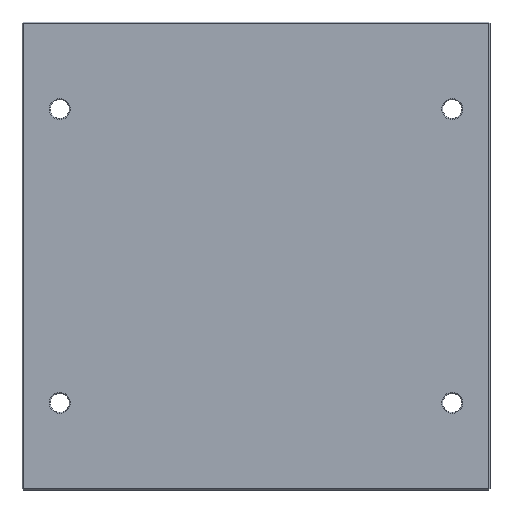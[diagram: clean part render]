
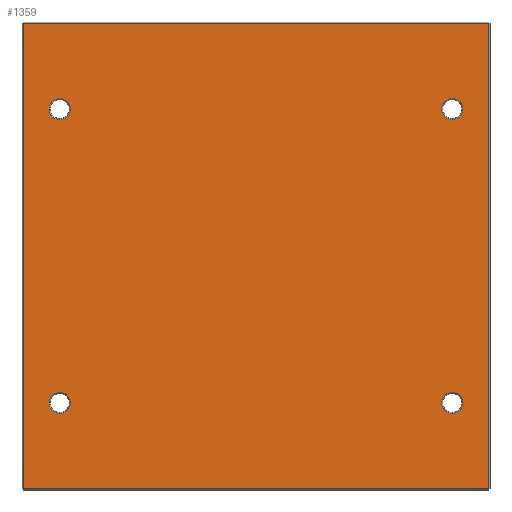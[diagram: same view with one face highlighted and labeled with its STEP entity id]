
A CAD part, front view. The second image highlights one B-rep face of the part: STEP entity #1359.
In plain terms, the highlighted planar face has unit normal (0, -1, 0).
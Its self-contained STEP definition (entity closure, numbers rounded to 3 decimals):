
#26 = AXIS2_PLACEMENT_3D ( 'NONE', #240, #244, #255 ) ;
#35 = EDGE_CURVE ( 'NONE', #513, #1153, #177, .T. ) ;
#41 = EDGE_CURVE ( 'NONE', #270, #474, #1491, .T. ) ;
#58 = CIRCLE ( 'NONE', #994, 10. ) ;
#81 = VERTEX_POINT ( 'NONE', #478 ) ;
#89 = EDGE_LOOP ( 'NONE', ( #1637, #621 ) ) ;
#98 = CIRCLE ( 'NONE', #99, 10. ) ;
#99 = AXIS2_PLACEMENT_3D ( 'NONE', #251, #243, #237 ) ;
#101 = LINE ( 'NONE', #218, #1100 ) ;
#105 = CARTESIAN_POINT ( 'NONE',  ( -187., 0., -140. ) ) ;
#112 = VECTOR ( 'NONE', #1469, 1000. ) ;
#125 = ORIENTED_EDGE ( 'NONE', *, *, #1372, .T. ) ;
#177 = LINE ( 'NONE', #730, #511 ) ;
#200 = DIRECTION ( 'NONE',  ( 0., 1., 0. ) ) ;
#203 = DIRECTION ( 'NONE',  ( 0., 0., 1. ) ) ;
#218 = CARTESIAN_POINT ( 'NONE',  ( -222., 0., 0. ) ) ;
#237 = DIRECTION ( 'NONE',  ( 0., 0., 1. ) ) ;
#240 = CARTESIAN_POINT ( 'NONE',  ( 187., 0., 140. ) ) ;
#243 = DIRECTION ( 'NONE',  ( 0., 1., 0. ) ) ;
#244 = DIRECTION ( 'NONE',  ( 0., 1., 0. ) ) ;
#251 = CARTESIAN_POINT ( 'NONE',  ( -187., 0., 140. ) ) ;
#255 = DIRECTION ( 'NONE',  ( 0., 0., 1. ) ) ;
#262 = ORIENTED_EDGE ( 'NONE', *, *, #41, .T. ) ;
#270 = VERTEX_POINT ( 'NONE', #955 ) ;
#333 = ORIENTED_EDGE ( 'NONE', *, *, #1073, .T. ) ;
#356 = DIRECTION ( 'NONE',  ( 0., 0., 1. ) ) ;
#359 = AXIS2_PLACEMENT_3D ( 'NONE', #105, #200, #203 ) ;
#383 = CARTESIAN_POINT ( 'NONE',  ( -222., 0., 222. ) ) ;
#399 = CIRCLE ( 'NONE', #599, 10. ) ;
#437 = DIRECTION ( 'NONE',  ( 0., 0., -1. ) ) ;
#457 = ORIENTED_EDGE ( 'NONE', *, *, #1347, .T. ) ;
#474 = VERTEX_POINT ( 'NONE', #649 ) ;
#478 = CARTESIAN_POINT ( 'NONE',  ( 187., 0., -150. ) ) ;
#511 = VECTOR ( 'NONE', #703, 1000. ) ;
#513 = VERTEX_POINT ( 'NONE', #835 ) ;
#555 = VERTEX_POINT ( 'NONE', #1264 ) ;
#559 = AXIS2_PLACEMENT_3D ( 'NONE', #998, #1003, #1006 ) ;
#591 = CARTESIAN_POINT ( 'NONE',  ( 222., 0., 0. ) ) ;
#599 = AXIS2_PLACEMENT_3D ( 'NONE', #1002, #646, #650 ) ;
#610 = VERTEX_POINT ( 'NONE', #999 ) ;
#621 = ORIENTED_EDGE ( 'NONE', *, *, #1503, .T. ) ;
#627 = EDGE_LOOP ( 'NONE', ( #727, #654 ) ) ;
#639 = DIRECTION ( 'NONE',  ( -1., 0., 0. ) ) ;
#646 = DIRECTION ( 'NONE',  ( 0., 1., 0. ) ) ;
#649 = CARTESIAN_POINT ( 'NONE',  ( -187., 0., -150. ) ) ;
#650 = DIRECTION ( 'NONE',  ( 0., 0., 1. ) ) ;
#654 = ORIENTED_EDGE ( 'NONE', *, *, #974, .T. ) ;
#679 = EDGE_CURVE ( 'NONE', #81, #1419, #1471, .T. ) ;
#681 = DIRECTION ( 'NONE',  ( 0., 1., 0. ) ) ;
#700 = CARTESIAN_POINT ( 'NONE',  ( 187., 0., 130. ) ) ;
#703 = DIRECTION ( 'NONE',  ( 1., 0., 0. ) ) ;
#726 = FACE_OUTER_BOUND ( 'NONE', #1629, .T. ) ;
#727 = ORIENTED_EDGE ( 'NONE', *, *, #679, .T. ) ;
#730 = CARTESIAN_POINT ( 'NONE',  ( 0., 0., -222. ) ) ;
#735 = EDGE_CURVE ( 'NONE', #1153, #555, #1378, .T. ) ;
#740 = AXIS2_PLACEMENT_3D ( 'NONE', #1265, #1267, #1272 ) ;
#762 = FACE_BOUND ( 'NONE', #89, .T. ) ;
#797 = CARTESIAN_POINT ( 'NONE',  ( 222., 0., -222. ) ) ;
#805 = CIRCLE ( 'NONE', #1385, 10. ) ;
#835 = CARTESIAN_POINT ( 'NONE',  ( -222., 0., -222. ) ) ;
#855 = CARTESIAN_POINT ( 'NONE',  ( 187., 0., 140. ) ) ;
#920 = AXIS2_PLACEMENT_3D ( 'NONE', #1651, #681, #356 ) ;
#926 = CIRCLE ( 'NONE', #26, 10. ) ;
#927 = ORIENTED_EDGE ( 'NONE', *, *, #1229, .T. ) ;
#951 = CARTESIAN_POINT ( 'NONE',  ( -187., 0., -140. ) ) ;
#955 = CARTESIAN_POINT ( 'NONE',  ( -187., 0., -130. ) ) ;
#961 = DIRECTION ( 'NONE',  ( 0., 0., 1. ) ) ;
#974 = EDGE_CURVE ( 'NONE', #1419, #81, #399, .T. ) ;
#976 = DIRECTION ( 'NONE',  ( 0., 1., 0. ) ) ;
#994 = AXIS2_PLACEMENT_3D ( 'NONE', #855, #976, #961 ) ;
#998 = CARTESIAN_POINT ( 'NONE',  ( -187., 0., 140. ) ) ;
#999 = CARTESIAN_POINT ( 'NONE',  ( -187., 0., 150. ) ) ;
#1002 = CARTESIAN_POINT ( 'NONE',  ( 187., 0., -140. ) ) ;
#1003 = DIRECTION ( 'NONE',  ( 0., 1., 0. ) ) ;
#1006 = DIRECTION ( 'NONE',  ( 0., 0., 1. ) ) ;
#1059 = FACE_BOUND ( 'NONE', #1536, .T. ) ;
#1073 = EDGE_CURVE ( 'NONE', #555, #1085, #1608, .T. ) ;
#1085 = VERTEX_POINT ( 'NONE', #383 ) ;
#1100 = VECTOR ( 'NONE', #437, 1000. ) ;
#1153 = VERTEX_POINT ( 'NONE', #797 ) ;
#1158 = EDGE_LOOP ( 'NONE', ( #125, #927 ) ) ;
#1179 = CARTESIAN_POINT ( 'NONE',  ( 0., 0., 222. ) ) ;
#1190 = VERTEX_POINT ( 'NONE', #1572 ) ;
#1229 = EDGE_CURVE ( 'NONE', #1190, #1305, #926, .T. ) ;
#1239 = VECTOR ( 'NONE', #639, 1000. ) ;
#1264 = CARTESIAN_POINT ( 'NONE',  ( 222., 0., 222. ) ) ;
#1265 = CARTESIAN_POINT ( 'NONE',  ( 187., 0., -140. ) ) ;
#1267 = DIRECTION ( 'NONE',  ( 0., 1., 0. ) ) ;
#1272 = DIRECTION ( 'NONE',  ( 0., 0., 1. ) ) ;
#1290 = VERTEX_POINT ( 'NONE', #1489 ) ;
#1305 = VERTEX_POINT ( 'NONE', #700 ) ;
#1342 = EDGE_CURVE ( 'NONE', #474, #270, #805, .T. ) ;
#1347 = EDGE_CURVE ( 'NONE', #1085, #513, #101, .T. ) ;
#1359 = ADVANCED_FACE ( 'NONE', ( #1408, #1533, #762, #1059, #726 ), #1631, .F. ) ;
#1372 = EDGE_CURVE ( 'NONE', #1305, #1190, #58, .T. ) ;
#1378 = LINE ( 'NONE', #591, #112 ) ;
#1385 = AXIS2_PLACEMENT_3D ( 'NONE', #951, #1520, #1604 ) ;
#1408 = FACE_BOUND ( 'NONE', #627, .T. ) ;
#1419 = VERTEX_POINT ( 'NONE', #1622 ) ;
#1469 = DIRECTION ( 'NONE',  ( 0., 0., 1. ) ) ;
#1471 = CIRCLE ( 'NONE', #740, 10. ) ;
#1483 = ORIENTED_EDGE ( 'NONE', *, *, #1342, .T. ) ;
#1489 = CARTESIAN_POINT ( 'NONE',  ( -187., 0., 130. ) ) ;
#1491 = CIRCLE ( 'NONE', #359, 10. ) ;
#1503 = EDGE_CURVE ( 'NONE', #610, #1290, #1660, .T. ) ;
#1520 = DIRECTION ( 'NONE',  ( 0., 1., 0. ) ) ;
#1533 = FACE_BOUND ( 'NONE', #1158, .T. ) ;
#1536 = EDGE_LOOP ( 'NONE', ( #1483, #262 ) ) ;
#1572 = CARTESIAN_POINT ( 'NONE',  ( 187., 0., 150. ) ) ;
#1587 = ORIENTED_EDGE ( 'NONE', *, *, #735, .T. ) ;
#1604 = DIRECTION ( 'NONE',  ( 0., 0., 1. ) ) ;
#1608 = LINE ( 'NONE', #1179, #1239 ) ;
#1622 = CARTESIAN_POINT ( 'NONE',  ( 187., 0., -130. ) ) ;
#1629 = EDGE_LOOP ( 'NONE', ( #1587, #333, #457, #1635 ) ) ;
#1631 = PLANE ( 'NONE',  #920 ) ;
#1635 = ORIENTED_EDGE ( 'NONE', *, *, #35, .T. ) ;
#1637 = ORIENTED_EDGE ( 'NONE', *, *, #1661, .T. ) ;
#1651 = CARTESIAN_POINT ( 'NONE',  ( 0., 0., 0. ) ) ;
#1660 = CIRCLE ( 'NONE', #559, 10. ) ;
#1661 = EDGE_CURVE ( 'NONE', #1290, #610, #98, .T. ) ;
